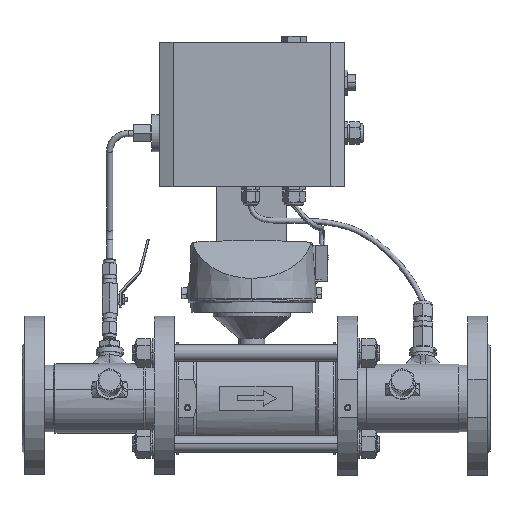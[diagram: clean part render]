
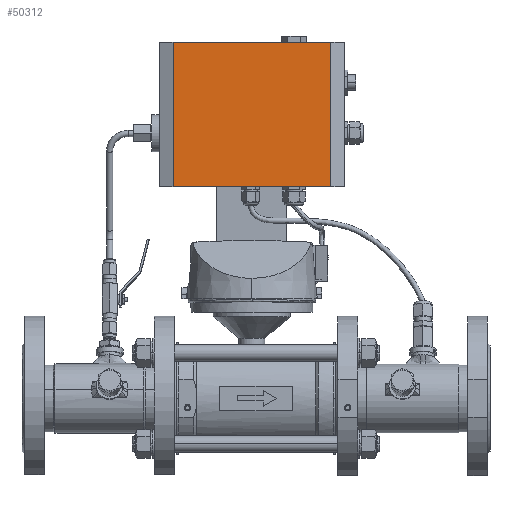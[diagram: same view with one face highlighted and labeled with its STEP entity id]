
A CAD part, top view. The second image highlights one B-rep face of the part: STEP entity #50312.
In plain terms, the highlighted planar face has unit normal (0, 0, 1).
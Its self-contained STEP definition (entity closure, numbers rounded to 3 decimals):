
#48704=DIRECTION('',(1.,0.,0.));
#48705=VECTOR('',#48704,152.988);
#48706=CARTESIAN_POINT('',(-76.494,-70.,37.5));
#48707=LINE('',#48706,#48705);
#48834=DIRECTION('',(1.,0.,0.));
#48835=VECTOR('',#48834,152.988);
#48836=CARTESIAN_POINT('',(-76.494,70.,37.5));
#48837=LINE('',#48836,#48835);
#49133=DIRECTION('',(0.,1.,0.));
#49134=VECTOR('',#49133,140.);
#49135=CARTESIAN_POINT('',(76.494,-70.,37.5));
#49136=LINE('',#49135,#49134);
#49140=DIRECTION('',(0.,1.,0.));
#49141=VECTOR('',#49140,140.);
#49142=CARTESIAN_POINT('',(-76.494,-70.,37.5));
#49143=LINE('',#49142,#49141);
#49398=CARTESIAN_POINT('',(-76.494,-70.,37.5));
#49400=VERTEX_POINT('',#49398);
#49401=CARTESIAN_POINT('',(76.494,-70.,37.5));
#49402=VERTEX_POINT('',#49401);
#49406=CARTESIAN_POINT('',(-76.494,70.,37.5));
#49408=VERTEX_POINT('',#49406);
#49409=CARTESIAN_POINT('',(76.494,70.,37.5));
#49410=VERTEX_POINT('',#49409);
#50301=CARTESIAN_POINT('',(-76.494,-70.,37.5));
#50302=DIRECTION('',(0.,0.,1.));
#50303=DIRECTION('',(1.,0.,0.));
#50304=AXIS2_PLACEMENT_3D('',#50301,#50302,#50303);
#50305=PLANE('',#50304);
#50306=ORIENTED_EDGE('',*,*,#49783,.F.);
#50307=ORIENTED_EDGE('',*,*,#49940,.T.);
#50308=ORIENTED_EDGE('',*,*,#49964,.T.);
#50309=ORIENTED_EDGE('',*,*,#50287,.F.);
#50310=EDGE_LOOP('',(#50306,#50307,#50308,#50309));
#50311=FACE_OUTER_BOUND('',#50310,.F.);
#49783=EDGE_CURVE('',#49400,#49402,#48707,.T.);
#49940=EDGE_CURVE('',#49400,#49408,#49143,.T.);
#49964=EDGE_CURVE('',#49408,#49410,#48837,.T.);
#50287=EDGE_CURVE('',#49402,#49410,#49136,.T.);
#50312=ADVANCED_FACE('',(#50311),#50305,.T.);
